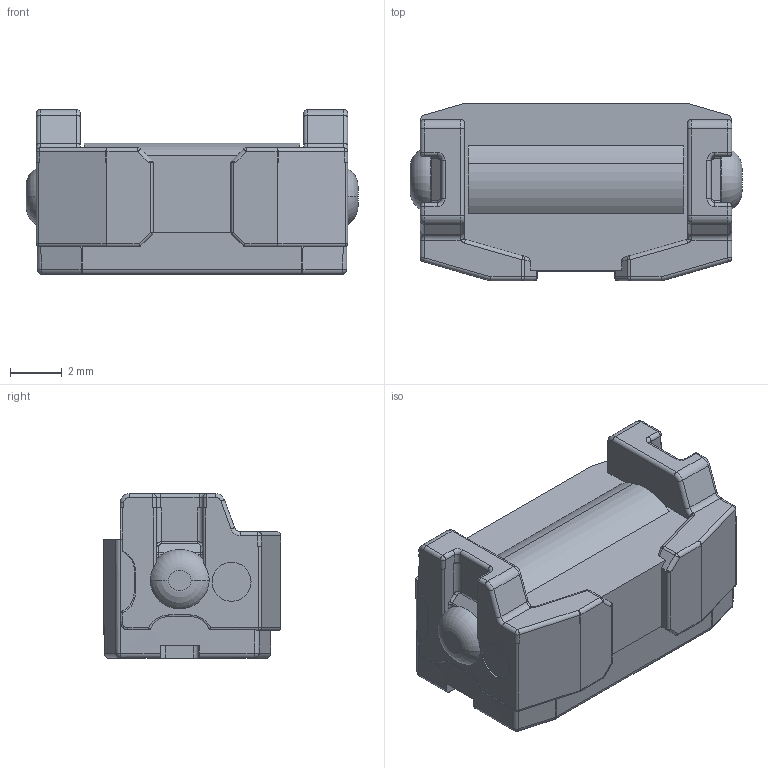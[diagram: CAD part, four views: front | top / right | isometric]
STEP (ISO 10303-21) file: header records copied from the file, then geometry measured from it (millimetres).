
FILE_DESCRIPTION (( 'STEP AP214' ), '1' );
FILE_NAME ('WS-VTS-X-X0.STEP', '2026-04-15T08:20:33', ( '' ), ( '' ), 'SwSTEP 2.0', 'SolidWorks 2025', '' );
FILE_SCHEMA (( 'AUTOMOTIVE_DESIGN' ));
Length unit declared in the file: millimetre
Products named in the file (1): WS-VTS-X-X0
Bounding box: 12.8 x 6.85 x 6.35 mm (x, y, z)
Volume: 383.2 mm3; surface area: 369.3 mm2
Topology: 1 solids, 1 shells, 302 faces, 770 edges, 438 vertices
Faces by surface type: cylinder 130, plane 89, torus 36, sphere 35, bspline 8, cone 4
Entity records: 12341 total; most frequent: CARTESIAN_POINT 2047, DIRECTION 1526, ORIENTED_EDGE 1470, EDGE_CURVE 735, AXIS2_PLACEMENT_3D 585, VERTEX_POINT 438, LINE 356, VECTOR 356
